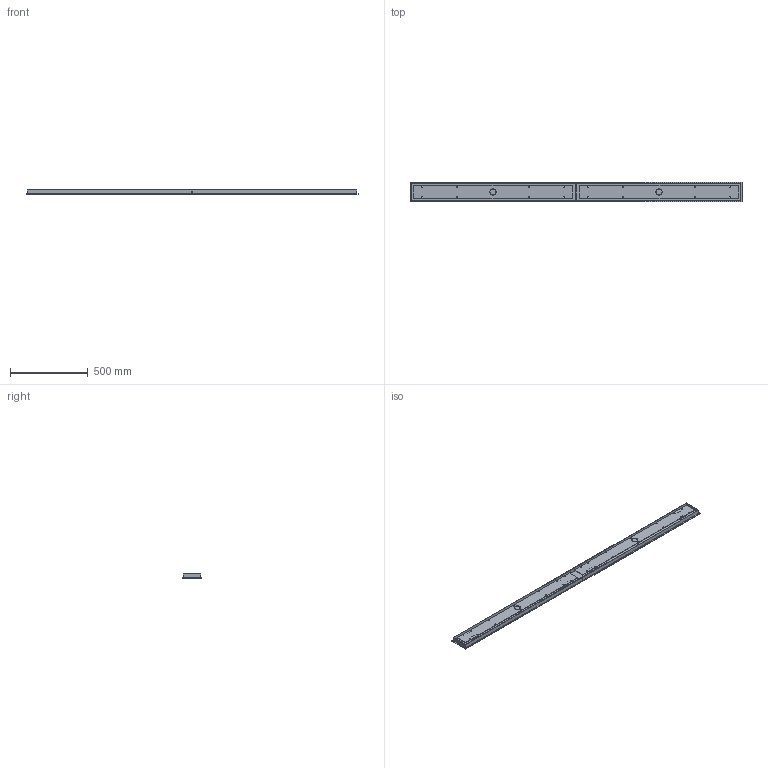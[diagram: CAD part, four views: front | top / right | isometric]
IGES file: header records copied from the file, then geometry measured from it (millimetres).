
Global section: file name: /Users/danielszollosi/Documents/SkLO/DEVELOPMENT/LIGHT 2024/MULTIPENDANT CANOPIES/Linear Multipendant Canopies/SkLO_Linear_Canopy_7'_MCL07/3D/SkLO_Linear_Canopy_7'_MCL07_3D.igs; native system: Rhinoceros ( Sep 24 2023 ); preprocessor: Trout Lake IGES 012 Sep 24 2023; date: 241018.152506; units: millimetre
Bounding box: 2140 x 127 x 28.3 mm (x, y, z)
Surface area: 1133357.2 mm2 (no closed solid volume)
Topology: 0 solids, 0 shells, 336 faces, 2126 edges, 1972 vertices
Faces by surface type: bspline 336
